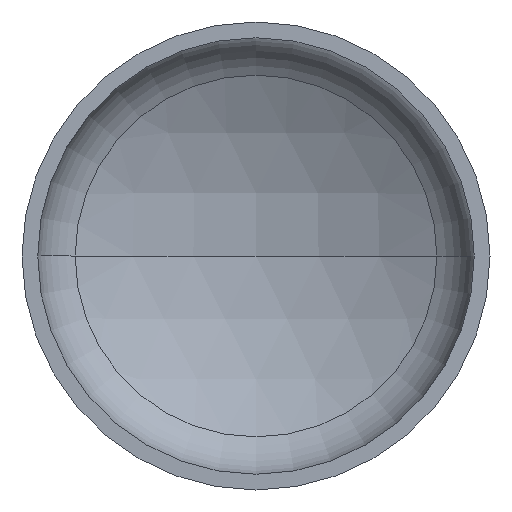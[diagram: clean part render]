
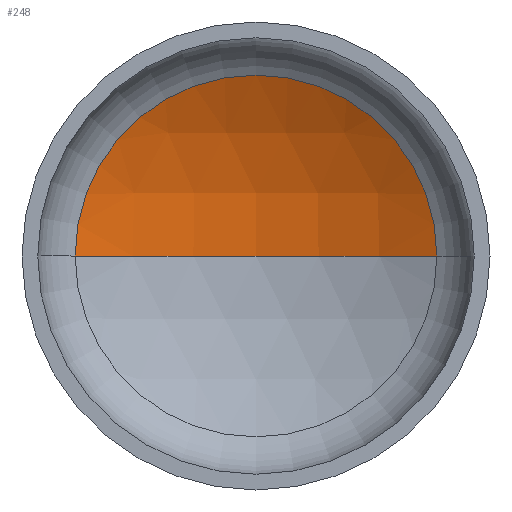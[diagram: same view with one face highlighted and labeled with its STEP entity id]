
A CAD part, front view. The second image highlights one B-rep face of the part: STEP entity #248.
In plain terms, the highlighted spherical face has radius 880 mm.
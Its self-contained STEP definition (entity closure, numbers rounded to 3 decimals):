
#11 = AXIS2_PLACEMENT_3D ( 'NONE', #215, #401, #239 ) ;
#13 = AXIS2_PLACEMENT_3D ( 'NONE', #354, #397, #177 ) ;
#15 = AXIS2_PLACEMENT_3D ( 'NONE', #88, #89, #393 ) ;
#21 = AXIS2_PLACEMENT_3D ( 'NONE', #238, #264, #263 ) ;
#86 = FACE_OUTER_BOUND ( 'NONE', #143, .T. ) ;
#88 = CARTESIAN_POINT ( 'NONE',  ( 0., 268.846, 0. ) ) ;
#89 = DIRECTION ( 'NONE',  ( 0., -1., 0. ) ) ;
#139 = CIRCLE ( 'NONE', #11, 880. ) ;
#140 = ORIENTED_EDGE ( 'NONE', *, *, #322, .T. ) ;
#143 = EDGE_LOOP ( 'NONE', ( #197, #176, #140 ) ) ;
#172 = CARTESIAN_POINT ( 'NONE',  ( -425.127, 268.846, 0. ) ) ;
#176 = ORIENTED_EDGE ( 'NONE', *, *, #328, .T. ) ;
#177 = DIRECTION ( 'NONE',  ( -1., 0., 0. ) ) ;
#197 = ORIENTED_EDGE ( 'NONE', *, *, #330, .F. ) ;
#215 = CARTESIAN_POINT ( 'NONE',  ( 0., -501.652, 0. ) ) ;
#228 = CIRCLE ( 'NONE', #15, 425.127 ) ;
#232 = VERTEX_POINT ( 'NONE', #172 ) ;
#235 = SPHERICAL_SURFACE ( 'NONE', #21, 880. ) ;
#238 = CARTESIAN_POINT ( 'NONE',  ( 0., -501.652, 0. ) ) ;
#239 = DIRECTION ( 'NONE',  ( 1., 0., 0. ) ) ;
#247 = VERTEX_POINT ( 'NONE', #249 ) ;
#248 = ADVANCED_FACE ( 'NONE', ( #86 ), #235, .F. ) ;
#249 = CARTESIAN_POINT ( 'NONE',  ( 0., 378.348, 0. ) ) ;
#261 = CARTESIAN_POINT ( 'NONE',  ( 425.127, 268.846, 0. ) ) ;
#263 = DIRECTION ( 'NONE',  ( -1., 0., 0. ) ) ;
#264 = DIRECTION ( 'NONE',  ( 0., 0., -1. ) ) ;
#322 = EDGE_CURVE ( 'NONE', #338, #232, #228, .T. ) ;
#328 = EDGE_CURVE ( 'NONE', #247, #338, #369, .T. ) ;
#330 = EDGE_CURVE ( 'NONE', #247, #232, #139, .T. ) ;
#338 = VERTEX_POINT ( 'NONE', #261 ) ;
#354 = CARTESIAN_POINT ( 'NONE',  ( 0., -501.652, 0. ) ) ;
#369 = CIRCLE ( 'NONE', #13, 880. ) ;
#393 = DIRECTION ( 'NONE',  ( 1., 0., 0. ) ) ;
#397 = DIRECTION ( 'NONE',  ( 0., 0., -1. ) ) ;
#401 = DIRECTION ( 'NONE',  ( 0., 0., 1. ) ) ;
